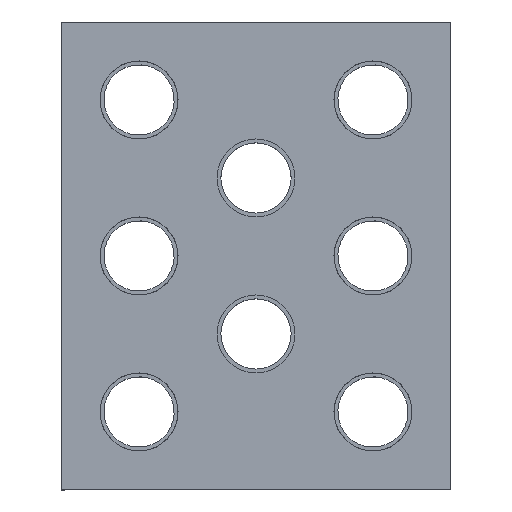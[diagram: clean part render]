
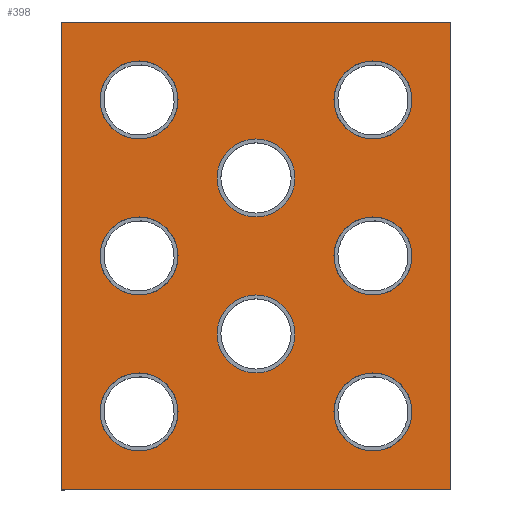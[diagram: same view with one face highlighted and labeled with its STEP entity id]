
A CAD part, top view. The second image highlights one B-rep face of the part: STEP entity #398.
In plain terms, the highlighted planar face has unit normal (0, 0, 1).
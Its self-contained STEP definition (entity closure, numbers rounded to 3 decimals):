
#61=FACE_BOUND('',#122,.T.);
#62=FACE_BOUND('',#123,.T.);
#63=FACE_BOUND('',#124,.T.);
#64=FACE_BOUND('',#125,.T.);
#65=FACE_BOUND('',#126,.T.);
#66=FACE_BOUND('',#127,.T.);
#67=FACE_BOUND('',#128,.T.);
#68=FACE_BOUND('',#129,.T.);
#83=PLANE('',#494);
#101=FACE_OUTER_BOUND('',#121,.T.);
#121=EDGE_LOOP('',(#348,#349,#350,#351));
#122=EDGE_LOOP('',(#352));
#123=EDGE_LOOP('',(#353));
#124=EDGE_LOOP('',(#354));
#125=EDGE_LOOP('',(#355));
#126=EDGE_LOOP('',(#356));
#127=EDGE_LOOP('',(#357));
#128=EDGE_LOOP('',(#358));
#129=EDGE_LOOP('',(#359));
#151=LINE('',#714,#173);
#154=LINE('',#720,#176);
#157=LINE('',#726,#179);
#160=LINE('',#730,#182);
#173=VECTOR('',#596,10.);
#176=VECTOR('',#601,10.);
#179=VECTOR('',#606,10.);
#182=VECTOR('',#611,10.);
#190=CIRCLE('',#467,10.);
#192=CIRCLE('',#470,10.);
#194=CIRCLE('',#473,10.);
#196=CIRCLE('',#476,10.);
#198=CIRCLE('',#479,10.);
#200=CIRCLE('',#482,10.);
#202=CIRCLE('',#485,10.);
#204=CIRCLE('',#488,10.);
#213=VERTEX_POINT('',#660);
#215=VERTEX_POINT('',#666);
#217=VERTEX_POINT('',#672);
#219=VERTEX_POINT('',#678);
#221=VERTEX_POINT('',#684);
#223=VERTEX_POINT('',#690);
#225=VERTEX_POINT('',#696);
#227=VERTEX_POINT('',#702);
#231=VERTEX_POINT('',#711);
#232=VERTEX_POINT('',#713);
#234=VERTEX_POINT('',#719);
#236=VERTEX_POINT('',#725);
#246=EDGE_CURVE('',#213,#213,#190,.T.);
#249=EDGE_CURVE('',#215,#215,#192,.T.);
#252=EDGE_CURVE('',#217,#217,#194,.T.);
#255=EDGE_CURVE('',#219,#219,#196,.T.);
#258=EDGE_CURVE('',#221,#221,#198,.T.);
#261=EDGE_CURVE('',#223,#223,#200,.T.);
#264=EDGE_CURVE('',#225,#225,#202,.T.);
#267=EDGE_CURVE('',#227,#227,#204,.T.);
#272=EDGE_CURVE('',#232,#231,#151,.T.);
#275=EDGE_CURVE('',#234,#232,#154,.T.);
#278=EDGE_CURVE('',#236,#234,#157,.T.);
#281=EDGE_CURVE('',#231,#236,#160,.T.);
#348=ORIENTED_EDGE('',*,*,#281,.T.);
#349=ORIENTED_EDGE('',*,*,#278,.T.);
#350=ORIENTED_EDGE('',*,*,#275,.T.);
#351=ORIENTED_EDGE('',*,*,#272,.T.);
#352=ORIENTED_EDGE('',*,*,#267,.T.);
#353=ORIENTED_EDGE('',*,*,#264,.T.);
#354=ORIENTED_EDGE('',*,*,#261,.T.);
#355=ORIENTED_EDGE('',*,*,#258,.T.);
#356=ORIENTED_EDGE('',*,*,#255,.T.);
#357=ORIENTED_EDGE('',*,*,#252,.T.);
#358=ORIENTED_EDGE('',*,*,#249,.T.);
#359=ORIENTED_EDGE('',*,*,#246,.T.);
#398=ADVANCED_FACE('',(#101,#61,#62,#63,#64,#65,#66,#67,#68),#83,.T.);
#467=AXIS2_PLACEMENT_3D('',#661,#538,#539);
#470=AXIS2_PLACEMENT_3D('',#667,#545,#546);
#473=AXIS2_PLACEMENT_3D('',#673,#552,#553);
#476=AXIS2_PLACEMENT_3D('',#679,#559,#560);
#479=AXIS2_PLACEMENT_3D('',#685,#566,#567);
#482=AXIS2_PLACEMENT_3D('',#691,#573,#574);
#485=AXIS2_PLACEMENT_3D('',#697,#580,#581);
#488=AXIS2_PLACEMENT_3D('',#703,#587,#588);
#494=AXIS2_PLACEMENT_3D('',#731,#612,#613);
#538=DIRECTION('center_axis',(0.,0.,-1.));
#539=DIRECTION('ref_axis',(-1.,0.,0.));
#545=DIRECTION('center_axis',(0.,0.,-1.));
#546=DIRECTION('ref_axis',(-1.,0.,0.));
#552=DIRECTION('center_axis',(0.,0.,-1.));
#553=DIRECTION('ref_axis',(-1.,0.,0.));
#559=DIRECTION('center_axis',(0.,0.,-1.));
#560=DIRECTION('ref_axis',(-1.,0.,0.));
#566=DIRECTION('center_axis',(0.,0.,-1.));
#567=DIRECTION('ref_axis',(-1.,0.,0.));
#573=DIRECTION('center_axis',(0.,0.,-1.));
#574=DIRECTION('ref_axis',(-1.,0.,0.));
#580=DIRECTION('center_axis',(0.,0.,-1.));
#581=DIRECTION('ref_axis',(-1.,0.,0.));
#587=DIRECTION('center_axis',(0.,0.,-1.));
#588=DIRECTION('ref_axis',(-1.,0.,0.));
#596=DIRECTION('',(-1.,0.,0.));
#601=DIRECTION('',(0.,1.,0.));
#606=DIRECTION('',(1.,0.,0.));
#611=DIRECTION('',(0.,-1.,0.));
#612=DIRECTION('center_axis',(0.,0.,1.));
#613=DIRECTION('ref_axis',(1.,0.,0.));
#660=CARTESIAN_POINT('',(10.,-20.,1.));
#661=CARTESIAN_POINT('Origin',(0.,-20.,1.));
#666=CARTESIAN_POINT('',(-20.,-40.,1.));
#667=CARTESIAN_POINT('Origin',(-30.,-40.,1.));
#672=CARTESIAN_POINT('',(-20.,0.,1.));
#673=CARTESIAN_POINT('Origin',(-30.,0.,1.));
#678=CARTESIAN_POINT('',(-20.,40.,1.));
#679=CARTESIAN_POINT('Origin',(-30.,40.,1.));
#684=CARTESIAN_POINT('',(40.,-40.,1.));
#685=CARTESIAN_POINT('Origin',(30.,-40.,1.));
#690=CARTESIAN_POINT('',(40.,0.,1.));
#691=CARTESIAN_POINT('Origin',(30.,0.,1.));
#696=CARTESIAN_POINT('',(40.,40.,1.));
#697=CARTESIAN_POINT('Origin',(30.,40.,1.));
#702=CARTESIAN_POINT('',(10.,20.,1.));
#703=CARTESIAN_POINT('Origin',(0.,20.,1.));
#711=CARTESIAN_POINT('',(-50.,60.,1.));
#713=CARTESIAN_POINT('',(50.,60.,1.));
#714=CARTESIAN_POINT('',(50.,60.,1.));
#719=CARTESIAN_POINT('',(50.,-60.,1.));
#720=CARTESIAN_POINT('',(50.,-60.,1.));
#725=CARTESIAN_POINT('',(-50.,-60.,1.));
#726=CARTESIAN_POINT('',(-50.,-60.,1.));
#730=CARTESIAN_POINT('',(-50.,60.,1.));
#731=CARTESIAN_POINT('Origin',(0.,0.,
1.));
